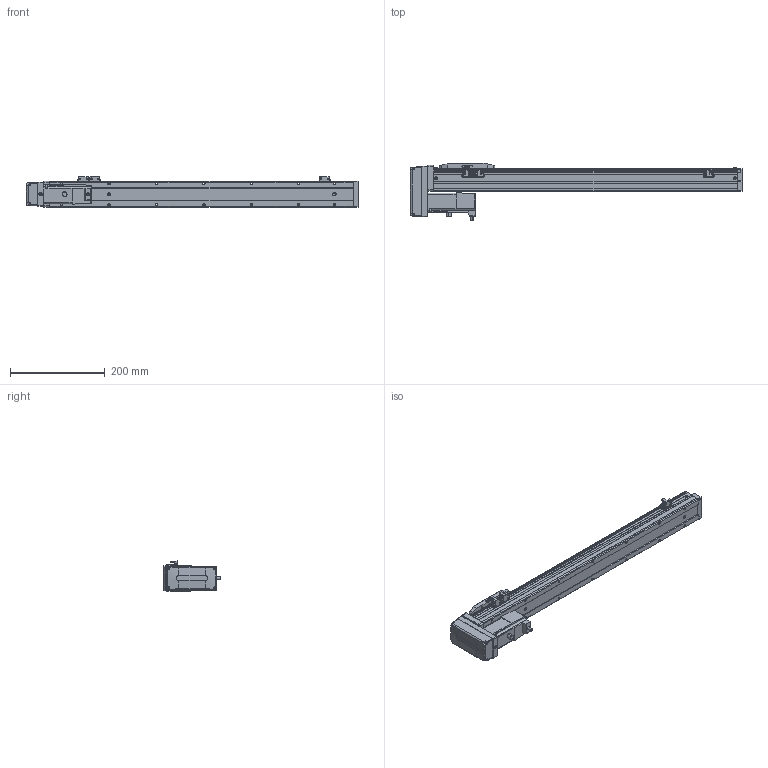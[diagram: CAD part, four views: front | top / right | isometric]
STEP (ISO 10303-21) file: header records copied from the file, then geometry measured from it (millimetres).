
FILE_DESCRIPTION (( 'STEP AP203' ), '1' );
FILE_NAME ('CTH5-L10-S500-BM-C10(¼ò).STEP', '2023-02-04T02:21:35', ( '' ), ( '' ), 'SwSTEP 2.0', 'SolidWorks 2018', '' );
FILE_SCHEMA (( 'CONFIG_CONTROL_DESIGN' ));
Length unit declared in the file: millimetre
Products named in the file (22): CTH5-BL-T10_body5; CTH5耜晚蹟隊-1; 100W萇儂; PM-Y45; CTH5綴耜啣; CTH5耜蚾蟀諉啣(潠); 嫖萇羲壽郪磁1; 葩璃 蚾饜极13^CTH8-L10-S50-BM-C40(潠)1; CTH5菁釱-L640; 内六角圆柱头螺钉M3-2; M3｡｣; CTH5覜茼え; CTH5賑怢; CTH5耜蚾欶; CTH5ヶ耜啣(潠); CTH100W假蚾啣; hex nuts, style 1-grades ab gb_GB_FASTENER_NUT_SNAB1 M3-N; CTH嫖萇羲壽假蚾啣; CTH5耜晚蹟隊; T10-p1; CTH5-L10-S500-BM-C10(潠); 葩璃 蚾饜极16^CTH5-L10-S500-BM-C10(潠)
Assembly tree (37 placements, depth 4):
  CTH5-L10-S500-BM-C10(潠)
    CTH5綴耜啣
    CTH5賑怢
    CTH5ヶ耜啣(潠)
    CTH5菁釱-L640
    CTH5耜晚蹟隊  x2
    嫖萇羲壽郪磁1  x2
      CTH嫖萇羲壽假蚾啣
      PM-Y45
      M3｡｣
      内六角圆柱头螺钉M3-2
      hex nuts, style 1-grades ab gb_GB_FASTENER_NUT_SNAB1 M3-N
    CTH5覜茼え
    葩璃 蚾饜极13^CTH8-L10-S50-BM-C40(潠)1
      CTH嫖萇羲壽假蚾啣
      PM-Y45
      内六角圆柱头螺钉M3-2  x2
      M3｡｣  x2
      hex nuts, style 1-grades ab gb_GB_FASTENER_NUT_SNAB1 M3-N  x2
    CTH5耜晚蹟隊-1  x4
    葩璃 蚾饜极16^CTH5-L10-S500-BM-C10(潠)
      CTH5耜蚾蟀諉啣(潠)
      CTH5耜蚾欶
        CTH5-BL-T10_body5
      100W萇儂
        T10-p1
      CTH100W假蚾啣
Bounding box: 700 x 122.21 x 63.3 mm (x, y, z)
Volume: 1765268.2 mm3; surface area: 256424.4 mm2
Topology: 39 solids, 39 shells, 1607 faces, 4033 edges, 2604 vertices
Faces by surface type: plane 890, cylinder 468, cone 191, torus 40, bspline 18
Entity records: 37471 total; most frequent: CARTESIAN_POINT 6940, DIRECTION 5917, ORIENTED_EDGE 5690, EDGE_CURVE 2845, AXIS2_PLACEMENT_3D 2036, LINE 1845, VECTOR 1845, VERTEX_POINT 1832
